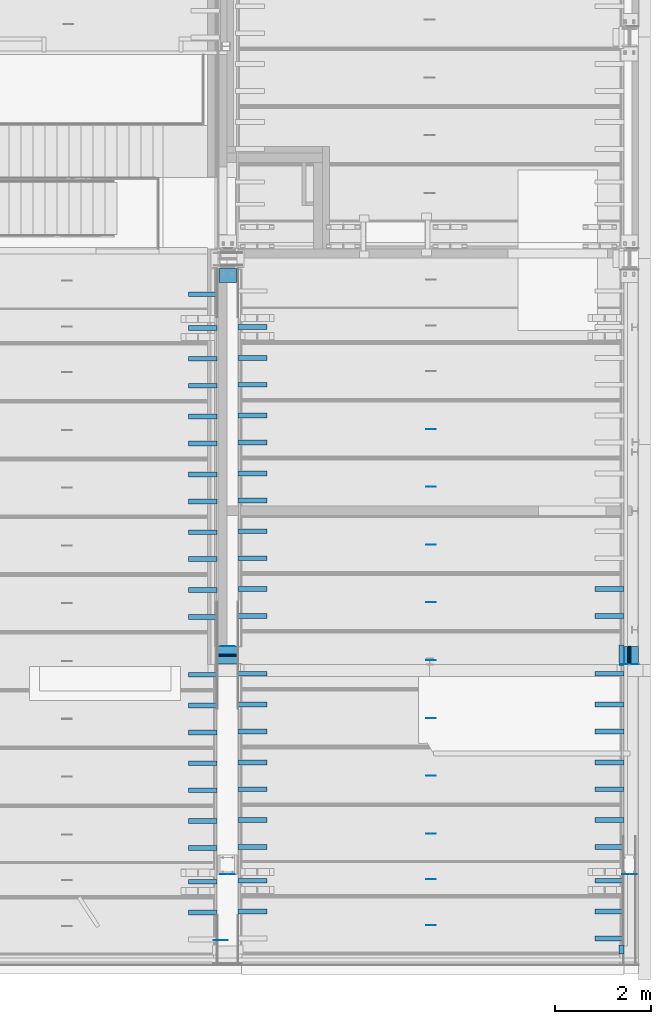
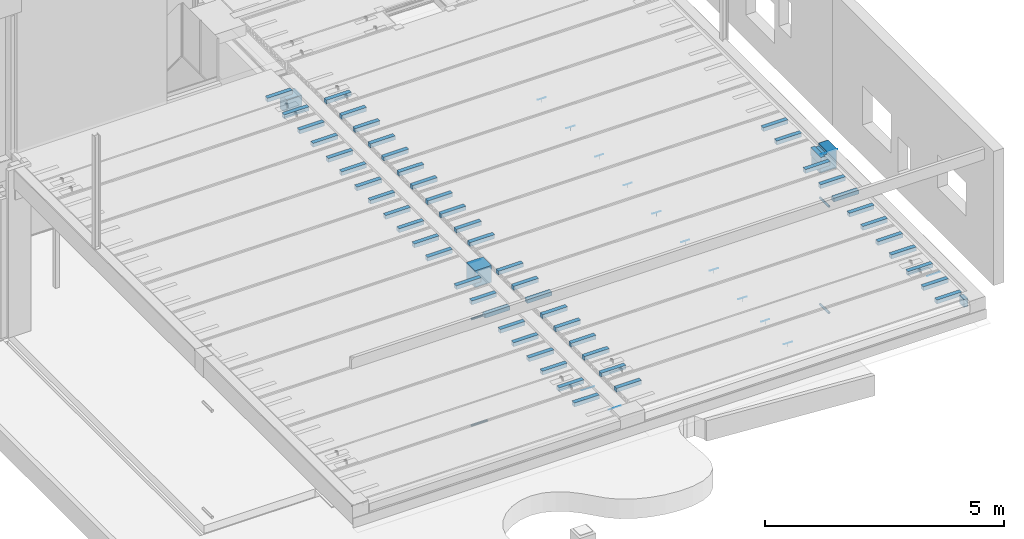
# One storey, part 16 of 230: 87 beams.
"""IFC4X3_ADD2 building model written with IfcOpenShell, lengths in millimetres."""

import ifcopenshell
import ifcopenshell.guid

model = None  # the IFC model being written
_history = None  # IfcOwnerHistory: only IFC2X3 demands one
_inside = {}  # id of a spatial element -> (the spatial element, [elements in it])
_under = {}  # id of a project, library or spatial element -> (it, [spatial elements below it])
_declared = {}  # id of a project -> (the project, [libraries it declares])
_typed = {}  # id of a type object -> (the type object, [elements of that type])
_made_of = {}  # id of a material, layer set ... -> (it, [elements and type objects made of it])


def new_model(schema):
    """Start an empty IFC model of exactly this schema.

    Asked for "IFC4X3", IfcOpenShell would pick the latest addendum, in which some entities
    have other attributes; the version numbers below select the first issue.
    IFC2X3 requires an IfcOwnerHistory on every rooted entity: one is made here for all.
    """
    global model, _history
    if schema == "IFC4X3":
        model = ifcopenshell.file(schema_version=(4, 3, 0, 0))
    else:
        model = ifcopenshell.file(schema=schema)
    _inside.clear()
    _under.clear()
    _declared.clear()
    _typed.clear()
    _made_of.clear()
    _history = None
    if model.schema == "IFC2X3":
        org = make("IfcOrganization", Name="unknown")
        user = make(
            "IfcPersonAndOrganization",
            ThePerson=make("IfcPerson", FamilyName="unknown"),
            TheOrganization=org,
        )
        app = make(
            "IfcApplication",
            ApplicationDeveloper=org,
            Version="unknown",
            ApplicationFullName="unknown",
            ApplicationIdentifier="unknown",
        )
        _history = make(
            "IfcOwnerHistory",
            OwningUser=user,
            OwningApplication=app,
            ChangeAction="ADDED",
            CreationDate=0,
        )
    return model


def make(cls, **values):
    """One entity of the class cls with the attributes given. An attribute that is None is left unset."""
    return model.create_entity(
        cls, **{name: value for name, value in values.items() if value is not None}
    )


def entity(cls, *values):
    """Any entity or typed value of the class cls, its attributes in the order of the schema. None: left unset."""
    e = model.create_entity(cls)
    for i, value in enumerate(values):
        if value is not None:
            e[i] = value
    return e


def rooted(cls, **values):
    """An entity with a GlobalId (a new one), such as an element, a storey or a relation."""
    return make(cls, GlobalId=ifcopenshell.guid.new(), OwnerHistory=_history, **values)


def si_unit(unit_type, name, prefix=None):
    """IfcSIUnit, for example si_unit("LENGTHUNIT", "METRE", prefix="MILLI")."""
    return make("IfcSIUnit", UnitType=unit_type, Prefix=prefix, Name=name)


def assignment(units):
    """IfcUnitAssignment: the units of a project."""
    return None if units is None else make("IfcUnitAssignment", Units=units)


def point(xyz):
    """IfcCartesianPoint."""
    return None if xyz is None else make("IfcCartesianPoint", Coordinates=xyz)


def direction(xyz):
    """IfcDirection."""
    return None if xyz is None else make("IfcDirection", DirectionRatios=xyz)


def frame(location, z_axis=None, x_axis=None):
    """IfcAxis2Placement3D, a coordinate frame: its origin and axes. An axis left out is left unset."""
    return make(
        "IfcAxis2Placement3D",
        Location=point(location),
        Axis=direction(z_axis),
        RefDirection=direction(x_axis),
    )


def frame_2d(location, x_axis=None):
    """IfcAxis2Placement2D, a coordinate frame in the plane: its origin and x axis."""
    return make(
        "IfcAxis2Placement2D", Location=point(location), RefDirection=direction(x_axis)
    )


def origin_with_axes():
    """The frame at (0, 0, 0) with the z axis (0, 0, 1) and the x axis (1, 0, 0) written out."""
    return frame((0.0, 0.0, 0.0), z_axis=(0.0, 0.0, 1.0), x_axis=(1.0, 0.0, 0.0))


def place(relative_to, where):
    """IfcLocalPlacement: puts the frame where relative to a parent placement (None: the world)."""
    return make(
        "IfcLocalPlacement", PlacementRelTo=relative_to, RelativePlacement=where
    )


def context(
    kind, dimensions, precision=None, world=None, true_north=None, identifier=None
):
    """IfcGeometricRepresentationContext, for example the 3D "Model" context."""
    return make(
        "IfcGeometricRepresentationContext",
        ContextIdentifier=identifier,
        ContextType=kind,
        CoordinateSpaceDimension=dimensions,
        Precision=precision,
        WorldCoordinateSystem=world,
        TrueNorth=true_north,
    )


def subcontext(parent, identifier, kind, view, scale=None):
    """IfcGeometricRepresentationSubContext, for example "Body" below "Model"."""
    return make(
        "IfcGeometricRepresentationSubContext",
        ContextIdentifier=identifier,
        ContextType=kind,
        ParentContext=parent,
        TargetScale=scale,
        TargetView=view,
    )


def project(units=None, contexts=None):
    """IfcProject with its units and contexts."""
    return rooted(
        "IfcProject",
        Name="project",
        RepresentationContexts=contexts,
        UnitsInContext=assignment(units),
    )


def spatial(cls, under=None, at=None, **own):
    """A site, building, storey or space (cls), placed at a placement, below another one or the project."""
    s = rooted(cls, ObjectPlacement=at, **own)
    if under is not None:
        _under.setdefault(under.id(), (under, []))[1].append(s)
    return s


def point_list(points):
    """IfcCartesianPointList2D or 3D."""
    cls = (
        "IfcCartesianPointList2D" if len(points[0]) == 2 else "IfcCartesianPointList3D"
    )
    return make(cls, CoordList=points)


def indexed_curve(points, segments=None, self_intersect=None):
    """IfcIndexedPolyCurve: lines and arcs through numbered points (the first is 1)."""
    return make(
        "IfcIndexedPolyCurve",
        Points=point_list(points),
        Segments=segments,
        SelfIntersect=self_intersect,
    )


def profile(cls, at=None, kind="AREA", **sizes):
    """A parametric profile (cls). Its sizes go by their IFC names, for example OverallWidth=200.0."""
    return make(cls, ProfileType=kind, Position=at, **sizes)


def rectangle(**sizes):
    """IfcRectangleProfileDef."""
    return profile("IfcRectangleProfileDef", **sizes)


def hollow_circle(**sizes):
    """IfcCircleHollowProfileDef."""
    return profile("IfcCircleHollowProfileDef", **sizes)


def outline(outer, holes=None, kind="AREA"):
    """IfcArbitraryClosedProfileDef: a profile drawn as a closed curve; with holes, ...WithVoids."""
    if holes is None:
        return make("IfcArbitraryClosedProfileDef", ProfileType=kind, OuterCurve=outer)
    return make(
        "IfcArbitraryProfileDefWithVoids",
        ProfileType=kind,
        OuterCurve=outer,
        InnerCurves=holes,
    )


def extrude(swept, where, along, depth):
    """IfcExtrudedAreaSolid: the profile swept, set in the frame where, extruded along a direction by depth."""
    return make(
        "IfcExtrudedAreaSolid",
        SweptArea=swept,
        Position=where,
        ExtrudedDirection=direction(along),
        Depth=depth,
    )


def shape(context_of_items, identifier, shape_type, items):
    """IfcShapeRepresentation: the items that make up one representation, for example the "Body"."""
    return make(
        "IfcShapeRepresentation",
        ContextOfItems=context_of_items,
        RepresentationIdentifier=identifier,
        RepresentationType=shape_type,
        Items=items,
    )


def material(Name=None, Category=None):
    """IfcMaterial."""
    return make("IfcMaterial", Name=Name, Category=Category)


def made_of(thing, what):
    """Note that an element or type object is made of a material, layer set ...; save() writes the relation."""
    if what is not None:
        _made_of.setdefault(what.id(), (what, []))[1].append(thing)
    return thing


def element(
    cls,
    number,
    at=None,
    inside=None,
    cuts=None,
    type_object=None,
    material=None,
    context=None,
    identifier="Body",
    shape_type=None,
    held_by="IfcProductDefinitionShape",
    body=None,
    shapes=None,
    **own,
):
    """One element of the class cls, such as IfcWall. Its Tag is "e" and its number.

    at: its placement. inside: the storey or other place that contains it. cuts: it is an
    opening in that element (IfcRelVoidsElement). A single representation is given by context,
    identifier, shape_type and body (its items); several are given by shapes. held_by: the class
    of the entity that holds the representations. save() writes the other relations.
    """
    e = rooted(cls, Tag="e%d" % number, ObjectPlacement=at, **own)
    if body is not None:
        shapes = [shape(context, identifier, shape_type, body)]
    if shapes is not None:
        e.Representation = make(held_by, Representations=shapes)
    if inside is not None:
        _inside.setdefault(inside.id(), (inside, []))[1].append(e)
    if cuts is not None:
        rooted(
            "IfcRelVoidsElement", RelatingBuildingElement=cuts, RelatedOpeningElement=e
        )
    if type_object is not None:
        _typed.setdefault(type_object.id(), (type_object, []))[1].append(e)
    return made_of(e, material)


def aggregate(whole, parts):
    """IfcRelAggregates: a whole, such as a stair, and the parts it consists of."""
    return rooted("IfcRelAggregates", RelatingObject=whole, RelatedObjects=parts)


def save(model, path):
    """Write the relations noted so far, then the file.

    IfcRelAggregates (storeys below a building ...), IfcRelContainedInSpatialStructure (elements
    in a storey), IfcRelDefinesByType, IfcRelAssociatesMaterial and IfcRelDeclares: one each for
    every whole, place, type object, material and project.
    """
    for whole, parts in _under.values():
        aggregate(whole, parts)
    for where, things in _inside.values():
        rooted(
            "IfcRelContainedInSpatialStructure",
            RelatedElements=things,
            RelatingStructure=where,
        )
    for kind, things in _typed.values():
        rooted("IfcRelDefinesByType", RelatedObjects=things, RelatingType=kind)
    for what, things in _made_of.values():
        rooted("IfcRelAssociatesMaterial", RelatedObjects=things, RelatingMaterial=what)
    for by, libraries in _declared.values():
        rooted("IfcRelDeclares", RelatingContext=by, RelatedDefinitions=libraries)
    model.write(path)


model = new_model("IFC4X3_ADD2")

# Units and contexts
model_context = context("Model", 3, precision=1e-05, world=origin_with_axes(), true_north=direction((0.0, 1.0)))
body_context = subcontext(model_context, "Body", "Model", "MODEL_VIEW")
ifc_project = project(units=[si_unit("LENGTHUNIT", "METRE", prefix="MILLI"), si_unit("AREAUNIT", "SQUARE_METRE"), si_unit("VOLUMEUNIT", "CUBIC_METRE"), si_unit("PLANEANGLEUNIT", "RADIAN"), si_unit("TIMEUNIT", "SECOND"), si_unit("MASSUNIT", "GRAM")], contexts=[model_context])

# Site, building, storey
site_placement = place(None, origin_with_axes())
site = spatial("IfcSite", under=ifc_project, at=site_placement, Name="Site", CompositionType="ELEMENT")
building_placement = place(site_placement, origin_with_axes())
building = spatial("IfcBuilding", under=site, at=building_placement, Name="IFC Building Story")
storey_placement = place(building_placement, origin_with_axes())
storey = spatial("IfcBuildingStorey", under=building, at=storey_placement, Name="ETAGE 00 (0)", Elevation=0.0)

# Beams
ifc_material_1 = material(Name="BS_28_Ossature en béton armé - Eléments coulé sur place")
beam_1_placement = place(storey_placement, frame((39961.68947816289, -8210.00008672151, 3984.999999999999), z_axis=(0.0, 1.0, 0.0), x_axis=(0.0, 0.0, -1.0)))
element("IfcBeam", 1, at=beam_1_placement, inside=storey, material=ifc_material_1, Name="BS_28_SF_LE_Poutre rectangulaire_coulé:B.A. 40x50cm (noeud CSP)", ObjectType="B.A. 40x50cm (noeud CSP) 2", context=body_context, shape_type="SweptSolid", body=[
    extrude(rectangle(XDim=430.000000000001, YDim=400.000000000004, at=frame_2d((0.0, 5.95523630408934e-12), x_axis=(1.0, 0.0))), origin_with_axes(), (0.0, 0.0, 1.0), 359.9999999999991),
])
beam_2_placement = place(storey_placement, frame((48301.6894781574, -8210.000086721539, 4020.0), z_axis=(0.0, 1.0, 0.0), x_axis=(1.0, 0.0, 0.0)))
element("IfcBeam", 2, at=beam_2_placement, inside=storey, material=ifc_material_1, Name="BS_28_SF_LE_Poutre rectangulaire_coulé:B.A. 40x50cm (noeud CSP)", ObjectType="B.A. 40x50cm (noeud CSP) 3", context=body_context, shape_type="SweptSolid", body=[
    extrude(outline(indexed_curve([(-36.00347815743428, -249.9999999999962), (-36.00347815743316, -179.9999999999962), (-200.0000000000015, -179.9999999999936), (-199.9999999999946, 250.0000000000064), (200.0000000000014, 250.0), (200.0000000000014, -250.0), (-36.00347815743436, -249.9999999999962)])), origin_with_axes(), (0.0, 0.0, 1.0), 359.9999999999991),
])
ifc_material_2 = material(Name="STEEL/Accessory_C60/75")
beam_3_placement = place(storey_placement, frame((39786.189, -150.0, 3560.0), z_axis=(1.0, 0.0, 0.0), x_axis=(0.0, 0.0, 1.0)))
element("IfcBeam", 3, at=beam_3_placement, inside=storey, material=ifc_material_2, Name="BEK1", ObjectType="CORBEL400-300-360", context=body_context, shape_type="SweptSolid", body=[
    extrude(entity("IfcTrapeziumProfileDef", "AREA", None, entity("IfcAxis2Placement2D", entity("IfcCartesianPoint", [0.0, 5.95523630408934e-12]), entity("IfcDirection", [1.0, 0.0])), 400.0, 360.0, 300.0, 40.0), origin_with_axes(), (0.0, 0.0, 1.0), 360.0),
])
ifc_material_3 = material(Name="STEEL/Accessory_PVC")
for number, where, z_axis, x_axis, name in (
    (4, (39774.1890000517, -8035.0, 140.0), (1.0, 0.0, 0.0), (0.0, 0.0, -1.0), "PS13"),
    (5, (39774.1889999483, -8035.0, 2860.0), (1.0, 0.0, 0.0), (0.0, 0.0, -1.0), "PS13"),
    (6, (48311.188, -8226.99999994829, 140.0), (0.0, 1.0, 0.0), (1.0, 0.0, 0.0), "PS13"),
    (7, (48311.188, -8226.99999994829, 2860.0), (0.0, 1.0, 0.0), (1.0, 0.0, 0.0), "PS13"),
):
    element("IfcBeam", number, at=place(storey_placement, frame(where, z_axis=z_axis, x_axis=x_axis)), inside=storey, material=ifc_material_3, Name=name, ObjectType="O56*3", context=body_context, shape_type="SweptSolid", body=[
        extrude(hollow_circle(Radius=28.0, WallThickness=3.0, at=frame_2d((0.0, 5.95523630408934e-12), x_axis=(1.0, 0.0))), origin_with_axes(), (0.0, 0.0, 1.0), 384.0),
    ])
ifc_material_4 = material(Name="STEEL/Accessory_invisible")
for number, where, z_axis, x_axis, name in (
    (8, (39750.6922247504, -3079.999771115, 4150.0), (-1.0, 0.0, 0.0), (0.0, -1.0, 0.0), "ES7"),
    (9, (39750.6922247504, -3639.999771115, 4150.0), (-1.0, 0.0, 0.0), (0.0, -1.0, 0.0), "ES7"),
    (10, (39750.6922247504, -4279.999771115, 4150.0), (-1.0, 0.0, 0.0), (0.0, -1.0, 0.0), "ES7"),
    (11, (39750.6922247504, -4839.999771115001, 4150.0), (-1.0, 0.0, 0.0), (0.0, -1.0, 0.0), "ES7"),
    (12, (39750.6922247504, -5479.999771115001, 4150.0), (-1.0, 0.0, 0.0), (0.0, -1.0, 0.0), "ES7"),
    (13, (39750.6922247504, -6039.999771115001, 4150.0), (-1.0, 0.0, 0.0), (0.0, -1.0, 0.0), "ES7"),
    (14, (39750.6922247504, -6679.999771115, 4150.0), (-1.0, 0.0, 0.0), (0.0, -1.0, 0.0), "ES7"),
    (15, (39750.6922247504, -7239.999771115, 4150.0), (-1.0, 0.0, 0.0), (0.0, -1.0, 0.0), "ES7"),
    (16, (39750.6922247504, -9079.999771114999, 4150.0), (-1.0, 0.0, 0.0), (0.0, -1.0, 0.0), "ES7"),
    (17, (39750.6922247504, -9639.999771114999, 4150.0), (-1.0, 0.0, 0.0), (0.0, -1.0, 0.0), "ES7"),
    (18, (39750.6922247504, -10279.999771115, 4150.0), (-1.0, 0.0, 0.0), (0.0, -1.0, 0.0), "ES7"),
    (19, (39750.6922247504, -10839.999771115, 4150.0), (-1.0, 0.0, 0.0), (0.0, -1.0, 0.0), "ES7"),
    (20, (39750.6922247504, -11479.999771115, 4150.0), (-1.0, 0.0, 0.0), (0.0, -1.0, 0.0), "ES7"),
    (21, (39750.6922247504, -12039.999771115, 4150.0), (-1.0, 0.0, 0.0), (0.0, -1.0, 0.0), "ES7"),
    (22, (39750.6922247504, -13379.999771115, 4150.0), (-1.0, 0.0, 0.0), (0.0, -1.0, 0.0), "ES7"),
    (23, (39750.6922247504, -8439.999771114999, 4150.0), (-1.0, 0.0, 0.0), (0.0, -1.0, 0.0), "ES7"),
    (24, (39750.6922247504, -539.999771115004, 4150.0), (-1.0, 0.0, 0.0), (0.0, -1.0, 0.0), "ES7"),
    (25, (39750.6922247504, -12739.999752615, 4150.0), (-1.0, 0.0, 0.0), (0.0, -1.0, 0.0), "ES7"),
    (26, (39750.6922247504, -1879.999771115, 4150.0), (-1.0, 0.0, 0.0), (0.0, -1.0, 0.0), "ES7"),
    (27, (39750.6922247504, -2439.999771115, 4150.0), (-1.0, 0.0, 0.0), (0.0, -1.0, 0.0), "ES7"),
    (28, (39750.6922247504, -1239.999752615, 4150.0), (-1.0, 0.0, 0.0), (0.0, -1.0, 0.0), "ES7"),
):
    element("IfcBeam", number, at=place(storey_placement, frame(where, z_axis=z_axis, x_axis=x_axis)), inside=storey, material=ifc_material_4, Name=name, ObjectType="100*100", context=body_context, shape_type="SweptSolid", body=[
        extrude(rectangle(XDim=100.0, YDim=99.99999999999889, at=frame_2d((0.0, 5.95523630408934e-12), x_axis=(1.0, 0.0))), origin_with_axes(), (0.0, 0.0, 1.0), 600.0000000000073),
    ])
for number, where, z_axis, x_axis, name in (
    (29, (40781.189, -1860.0, 4150.0), (-1.0, 0.0, 0.0), (0.0, 1.0, 0.0), "ES7"),
    (30, (40781.189, -2420.0, 4150.0), (-1.0, 0.0, 0.0), (0.0, 1.0, 0.0), "ES7"),
    (31, (40781.189, -3060.0, 4150.0), (-1.0, 0.0, 0.0), (0.0, 1.0, 0.0), "ES7"),
    (32, (40781.189, -3620.0, 4150.0), (-1.0, 0.0, 0.0), (0.0, 1.0, 0.0), "ES7"),
):
    element("IfcBeam", number, at=place(storey_placement, frame(where, z_axis=z_axis, x_axis=x_axis)), inside=storey, material=ifc_material_4, Name=name, ObjectType="100*100", context=body_context, shape_type="SweptSolid", body=[
        extrude(rectangle(XDim=100.0, YDim=99.99999999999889, at=frame_2d((0.0, 5.95523630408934e-12), x_axis=(1.0, 0.0))), origin_with_axes(), (0.0, 0.0, 1.0), 600.0),
    ])
ifc_material_5 = material(Name="STEEL/Accessory_invisible 261")
beam_4_placement = place(storey_placement, frame((44189.189, -3340.0, 4049.9999909), z_axis=(-1.0, 0.0, 0.0), x_axis=(0.0, 0.0, -1.0)))
element("IfcBeam", 33, at=beam_4_placement, inside=storey, material=ifc_material_5, Name="ES6", ObjectType="1*1 2", context=body_context, shape_type="SweptSolid", body=[
    extrude(rectangle(XDim=100.0, YDim=0.9999999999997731, at=frame_2d((0.0, 5.95523630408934e-12), x_axis=(1.0, 0.0))), origin_with_axes(), (0.0, 0.0, 1.0), 1.0),
])
beam_5_placement = place(storey_placement, frame((44288.689, -3340.0, 4100.0), z_axis=(-1.0, 0.0, 0.0), x_axis=(0.0, 1.0, 0.0)))
element("IfcBeam", 34, at=beam_5_placement, inside=storey, material=ifc_material_5, Name="ES31", ObjectType="1*1 3", context=body_context, shape_type="SweptSolid", body=[
    extrude(rectangle(XDim=0.9999999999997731, YDim=0.9999999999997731, at=frame_2d((0.0, 5.95523630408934e-12), x_axis=(1.0, 0.0))), origin_with_axes(), (0.0, 0.0, 1.0), 199.9999999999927),
])
for number, where, z_axis, x_axis, name in (
    (35, (40781.189, -4260.0, 4150.0), (-1.0, 0.0, 0.0), (0.0, 1.0, 0.0), "ES7"),
    (36, (40781.189, -4820.0, 4150.0), (-1.0, 0.0, 0.0), (0.0, 1.0, 0.0), "ES7"),
):
    element("IfcBeam", number, at=place(storey_placement, frame(where, z_axis=z_axis, x_axis=x_axis)), inside=storey, material=ifc_material_4, Name=name, ObjectType="100*100", context=body_context, shape_type="SweptSolid", body=[
        extrude(rectangle(XDim=100.0, YDim=99.99999999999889, at=frame_2d((0.0, 5.95523630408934e-12), x_axis=(1.0, 0.0))), origin_with_axes(), (0.0, 0.0, 1.0), 600.0),
    ])
beam_6_placement = place(storey_placement, frame((44189.189, -4540.0, 4049.9999909), z_axis=(-1.0, 0.0, 0.0), x_axis=(0.0, 0.0, -1.0)))
element("IfcBeam", 37, at=beam_6_placement, inside=storey, material=ifc_material_5, Name="ES6", ObjectType="1*1 2", context=body_context, shape_type="SweptSolid", body=[
    extrude(rectangle(XDim=100.0, YDim=0.9999999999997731, at=frame_2d((0.0, 5.95523630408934e-12), x_axis=(1.0, 0.0))), origin_with_axes(), (0.0, 0.0, 1.0), 1.0),
])
beam_7_placement = place(storey_placement, frame((44288.689, -4540.0, 4100.0), z_axis=(-1.0, 0.0, 0.0), x_axis=(0.0, 1.0, 0.0)))
element("IfcBeam", 38, at=beam_7_placement, inside=storey, material=ifc_material_5, Name="ES31", ObjectType="1*1 3", context=body_context, shape_type="SweptSolid", body=[
    extrude(rectangle(XDim=0.9999999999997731, YDim=0.9999999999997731, at=frame_2d((0.0, 5.95523630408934e-12), x_axis=(1.0, 0.0))), origin_with_axes(), (0.0, 0.0, 1.0), 199.9999999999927),
])
for number, where, z_axis, x_axis, name in (
    (39, (40781.189, -5460.0, 4150.0), (-1.0, 0.0, 0.0), (0.0, 1.0, 0.0), "ES7"),
    (40, (40781.189, -6020.0, 4150.0), (-1.0, 0.0, 0.0), (0.0, 1.0, 0.0), "ES7"),
):
    element("IfcBeam", number, at=place(storey_placement, frame(where, z_axis=z_axis, x_axis=x_axis)), inside=storey, material=ifc_material_4, Name=name, ObjectType="100*100", context=body_context, shape_type="SweptSolid", body=[
        extrude(rectangle(XDim=100.0, YDim=99.99999999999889, at=frame_2d((0.0, 5.95523630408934e-12), x_axis=(1.0, 0.0))), origin_with_axes(), (0.0, 0.0, 1.0), 600.0),
    ])
beam_8_placement = place(storey_placement, frame((44189.189, -5740.0, 4049.9999909), z_axis=(-1.0, 0.0, 0.0), x_axis=(0.0, 0.0, -1.0)))
element("IfcBeam", 41, at=beam_8_placement, inside=storey, material=ifc_material_5, Name="ES6", ObjectType="1*1 2", context=body_context, shape_type="SweptSolid", body=[
    extrude(rectangle(XDim=100.0, YDim=0.9999999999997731, at=frame_2d((0.0, 5.95523630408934e-12), x_axis=(1.0, 0.0))), origin_with_axes(), (0.0, 0.0, 1.0), 1.0),
])
beam_9_placement = place(storey_placement, frame((44288.689, -5740.0, 4100.0), z_axis=(-1.0, 0.0, 0.0), x_axis=(0.0, 1.0, 0.0)))
element("IfcBeam", 42, at=beam_9_placement, inside=storey, material=ifc_material_5, Name="ES31", ObjectType="1*1 3", context=body_context, shape_type="SweptSolid", body=[
    extrude(rectangle(XDim=0.9999999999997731, YDim=0.9999999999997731, at=frame_2d((0.0, 5.95523630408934e-12), x_axis=(1.0, 0.0))), origin_with_axes(), (0.0, 0.0, 1.0), 199.9999999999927),
])
for number, where, z_axis, x_axis, name in (
    (43, (40781.189, -6660.0, 4150.0), (-1.0, 0.0, 0.0), (0.0, 1.0, 0.0), "ES7"),
    (44, (40781.189, -7220.0, 4150.0), (-1.0, 0.0, 0.0), (0.0, 1.0, 0.0), "ES7"),
    (45, (48196.18900000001, -6660.0, 4150.0), (-1.0, 0.0, 0.0), (0.0, -1.0, 0.0), "ES7"),
    (46, (48196.18900000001, -7220.0, 4150.0), (-1.0, 0.0, 0.0), (0.0, -1.0, 0.0), "ES7"),
):
    element("IfcBeam", number, at=place(storey_placement, frame(where, z_axis=z_axis, x_axis=x_axis)), inside=storey, material=ifc_material_4, Name=name, ObjectType="100*100", context=body_context, shape_type="SweptSolid", body=[
        extrude(rectangle(XDim=100.0, YDim=99.99999999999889, at=frame_2d((0.0, 5.95523630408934e-12), x_axis=(1.0, 0.0))), origin_with_axes(), (0.0, 0.0, 1.0), 600.0),
    ])
beam_10_placement = place(storey_placement, frame((44189.189, -6940.0, 4049.9999909), z_axis=(-1.0, 0.0, 0.0), x_axis=(0.0, 0.0, -1.0)))
element("IfcBeam", 47, at=beam_10_placement, inside=storey, material=ifc_material_5, Name="ES6", ObjectType="1*1 2", context=body_context, shape_type="SweptSolid", body=[
    extrude(rectangle(XDim=100.0, YDim=0.9999999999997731, at=frame_2d((0.0, 5.95523630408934e-12), x_axis=(1.0, 0.0))), origin_with_axes(), (0.0, 0.0, 1.0), 1.0),
])
beam_11_placement = place(storey_placement, frame((44288.689, -6940.0, 4100.0), z_axis=(-1.0, 0.0, 0.0), x_axis=(0.0, 1.0, 0.0)))
element("IfcBeam", 48, at=beam_11_placement, inside=storey, material=ifc_material_5, Name="ES31", ObjectType="1*1 3", context=body_context, shape_type="SweptSolid", body=[
    extrude(rectangle(XDim=0.9999999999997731, YDim=0.9999999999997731, at=frame_2d((0.0, 5.95523630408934e-12), x_axis=(1.0, 0.0))), origin_with_axes(), (0.0, 0.0, 1.0), 199.9999999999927),
])
for number, where, z_axis, x_axis, name in (
    (49, (40781.189, -9060.0, 4150.0), (-1.0, 0.0, 0.0), (0.0, 1.0, 0.0), "ES7"),
    (50, (40781.189, -9620.0, 4150.0), (-1.0, 0.0, 0.0), (0.0, 1.0, 0.0), "ES7"),
    (51, (48196.18900000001, -9060.0, 4150.0), (-1.0, 0.0, 0.0), (0.0, -1.0, 0.0), "ES7"),
    (52, (48196.18900000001, -9620.0, 4150.0), (-1.0, 0.0, 0.0), (0.0, -1.0, 0.0), "ES7"),
):
    element("IfcBeam", number, at=place(storey_placement, frame(where, z_axis=z_axis, x_axis=x_axis)), inside=storey, material=ifc_material_4, Name=name, ObjectType="100*100", context=body_context, shape_type="SweptSolid", body=[
        extrude(rectangle(XDim=100.0, YDim=99.99999999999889, at=frame_2d((0.0, 5.95523630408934e-12), x_axis=(1.0, 0.0))), origin_with_axes(), (0.0, 0.0, 1.0), 600.0),
    ])
beam_12_placement = place(storey_placement, frame((44189.189, -9340.0, 4049.9999909), z_axis=(-1.0, 0.0, 0.0), x_axis=(0.0, 0.0, -1.0)))
element("IfcBeam", 53, at=beam_12_placement, inside=storey, material=ifc_material_5, Name="ES6", ObjectType="1*1 2", context=body_context, shape_type="SweptSolid", body=[
    extrude(rectangle(XDim=100.0, YDim=0.9999999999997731, at=frame_2d((0.0, 5.95523630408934e-12), x_axis=(1.0, 0.0))), origin_with_axes(), (0.0, 0.0, 1.0), 1.0),
])
beam_13_placement = place(storey_placement, frame((44288.689, -9340.0, 4100.0), z_axis=(-1.0, 0.0, 0.0), x_axis=(0.0, 1.0, 0.0)))
element("IfcBeam", 54, at=beam_13_placement, inside=storey, material=ifc_material_5, Name="ES31", ObjectType="1*1 3", context=body_context, shape_type="SweptSolid", body=[
    extrude(rectangle(XDim=0.9999999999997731, YDim=0.9999999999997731, at=frame_2d((0.0, 5.95523630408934e-12), x_axis=(1.0, 0.0))), origin_with_axes(), (0.0, 0.0, 1.0), 199.9999999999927),
])
for number, where, z_axis, x_axis, name in (
    (55, (40781.189, -10260.0, 4150.0), (-1.0, 0.0, 0.0), (0.0, 1.0, 0.0), "ES7"),
    (56, (40781.189, -10820.0, 4150.0), (-1.0, 0.0, 0.0), (0.0, 1.0, 0.0), "ES7"),
    (57, (48196.18900000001, -10260.0, 4150.0), (-1.0, 0.0, 0.0), (0.0, -1.0, 0.0), "ES7"),
    (58, (48196.18900000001, -10820.0, 4150.0), (-1.0, 0.0, 0.0), (0.0, -1.0, 0.0), "ES7"),
):
    element("IfcBeam", number, at=place(storey_placement, frame(where, z_axis=z_axis, x_axis=x_axis)), inside=storey, material=ifc_material_4, Name=name, ObjectType="100*100", context=body_context, shape_type="SweptSolid", body=[
        extrude(rectangle(XDim=100.0, YDim=99.99999999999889, at=frame_2d((0.0, 5.95523630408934e-12), x_axis=(1.0, 0.0))), origin_with_axes(), (0.0, 0.0, 1.0), 600.0),
    ])
beam_14_placement = place(storey_placement, frame((44189.189, -10540.0, 4049.9999909), z_axis=(-1.0, 0.0, 0.0), x_axis=(0.0, 0.0, -1.0)))
element("IfcBeam", 59, at=beam_14_placement, inside=storey, material=ifc_material_5, Name="ES6", ObjectType="1*1 2", context=body_context, shape_type="SweptSolid", body=[
    extrude(rectangle(XDim=100.0, YDim=0.9999999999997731, at=frame_2d((0.0, 5.95523630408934e-12), x_axis=(1.0, 0.0))), origin_with_axes(), (0.0, 0.0, 1.0), 1.0),
])
beam_15_placement = place(storey_placement, frame((44288.689, -10540.0, 4100.0), z_axis=(-1.0, 0.0, 0.0), x_axis=(0.0, 1.0, 0.0)))
element("IfcBeam", 60, at=beam_15_placement, inside=storey, material=ifc_material_5, Name="ES31", ObjectType="1*1 3", context=body_context, shape_type="SweptSolid", body=[
    extrude(rectangle(XDim=0.9999999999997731, YDim=0.9999999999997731, at=frame_2d((0.0, 5.95523630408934e-12), x_axis=(1.0, 0.0))), origin_with_axes(), (0.0, 0.0, 1.0), 199.9999999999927),
])
for number, where, z_axis, x_axis, name in (
    (61, (40781.189, -11460.0, 4150.0), (-1.0, 0.0, 0.0), (0.0, 1.0, 0.0), "ES7"),
    (62, (40781.189, -12020.0, 4150.0), (-1.0, 0.0, 0.0), (0.0, 1.0, 0.0), "ES7"),
    (63, (48196.18900000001, -11460.0, 4150.0), (-1.0, 0.0, 0.0), (0.0, -1.0, 0.0), "ES7"),
    (64, (48196.18900000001, -12020.0, 4150.0), (-1.0, 0.0, 0.0), (0.0, -1.0, 0.0), "ES7"),
):
    element("IfcBeam", number, at=place(storey_placement, frame(where, z_axis=z_axis, x_axis=x_axis)), inside=storey, material=ifc_material_4, Name=name, ObjectType="100*100", context=body_context, shape_type="SweptSolid", body=[
        extrude(rectangle(XDim=100.0, YDim=99.99999999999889, at=frame_2d((0.0, 5.95523630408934e-12), x_axis=(1.0, 0.0))), origin_with_axes(), (0.0, 0.0, 1.0), 600.0),
    ])
beam_16_placement = place(storey_placement, frame((44189.189, -11740.0, 4049.9999909), z_axis=(-1.0, 0.0, 0.0), x_axis=(0.0, 0.0, -1.0)))
element("IfcBeam", 65, at=beam_16_placement, inside=storey, material=ifc_material_5, Name="ES6", ObjectType="1*1 2", context=body_context, shape_type="SweptSolid", body=[
    extrude(rectangle(XDim=100.0, YDim=0.9999999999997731, at=frame_2d((0.0, 5.95523630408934e-12), x_axis=(1.0, 0.0))), origin_with_axes(), (0.0, 0.0, 1.0), 1.0),
])
beam_17_placement = place(storey_placement, frame((44288.689, -11740.0, 4100.0), z_axis=(-1.0, 0.0, 0.0), x_axis=(0.0, 1.0, 0.0)))
element("IfcBeam", 66, at=beam_17_placement, inside=storey, material=ifc_material_5, Name="ES31", ObjectType="1*1 3", context=body_context, shape_type="SweptSolid", body=[
    extrude(rectangle(XDim=0.9999999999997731, YDim=0.9999999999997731, at=frame_2d((0.0, 5.95523630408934e-12), x_axis=(1.0, 0.0))), origin_with_axes(), (0.0, 0.0, 1.0), 199.9999999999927),
])
for number, where, z_axis, x_axis, name in (
    (67, (40781.189, -12720.0, 4150.0), (-1.0, 0.0, 0.0), (0.0, 1.0, 0.0), "ES7"),
    (68, (48196.18900000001, -12720.0, 4150.0), (-1.0, 0.0, 0.0), (0.0, -1.0, 0.0), "ES7"),
):
    element("IfcBeam", number, at=place(storey_placement, frame(where, z_axis=z_axis, x_axis=x_axis)), inside=storey, material=ifc_material_4, Name=name, ObjectType="100*100", context=body_context, shape_type="SweptSolid", body=[
        extrude(rectangle(XDim=100.0, YDim=99.99999999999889, at=frame_2d((0.0, 5.95523630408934e-12), x_axis=(1.0, 0.0))), origin_with_axes(), (0.0, 0.0, 1.0), 600.0),
    ])
beam_18_placement = place(storey_placement, frame((44189.189, -12690.0, 4049.9999909), z_axis=(-1.0, 0.0, 0.0), x_axis=(0.0, 0.0, -1.0)))
element("IfcBeam", 69, at=beam_18_placement, inside=storey, material=ifc_material_5, Name="ES6", ObjectType="1*1 2", context=body_context, shape_type="SweptSolid", body=[
    extrude(rectangle(XDim=100.0, YDim=0.9999999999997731, at=frame_2d((0.0, 5.95523630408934e-12), x_axis=(1.0, 0.0))), origin_with_axes(), (0.0, 0.0, 1.0), 1.0),
])
beam_19_placement = place(storey_placement, frame((44288.689, -12690.0, 4100.0), z_axis=(-1.0, 0.0, 0.0), x_axis=(0.0, 1.0, 0.0)))
element("IfcBeam", 70, at=beam_19_placement, inside=storey, material=ifc_material_5, Name="ES31", ObjectType="1*1 3", context=body_context, shape_type="SweptSolid", body=[
    extrude(rectangle(XDim=0.9999999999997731, YDim=0.9999999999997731, at=frame_2d((0.0, 5.95523630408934e-12), x_axis=(1.0, 0.0))), origin_with_axes(), (0.0, 0.0, 1.0), 199.9999999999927),
])
for number, where, z_axis, x_axis, name in (
    (71, (40781.189, -1219.9999815, 4150.0), (-1.0, 0.0, 0.0), (0.0, 1.0, 0.0), "ES7"),
    (72, (40781.189, -13360.0, 4150.0), (-1.0, 0.0, 0.0), (0.0, 1.0, 0.0), "ES7"),
    (73, (48196.18900000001, -13360.0, 4150.0), (-1.0, 0.0, 0.0), (0.0, -1.0, 0.0), "ES7"),
    (74, (48196.18900000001, -13920.0, 4150.0), (-1.0, 0.0, 0.0), (0.0, -1.0, 0.0), "ES7"),
):
    element("IfcBeam", number, at=place(storey_placement, frame(where, z_axis=z_axis, x_axis=x_axis)), inside=storey, material=ifc_material_4, Name=name, ObjectType="100*100", context=body_context, shape_type="SweptSolid", body=[
        extrude(rectangle(XDim=100.0, YDim=99.99999999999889, at=frame_2d((0.0, 5.95523630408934e-12), x_axis=(1.0, 0.0))), origin_with_axes(), (0.0, 0.0, 1.0), 600.0),
    ])
beam_20_placement = place(storey_placement, frame((44189.189, -13640.0, 4049.9999909), z_axis=(-1.0, 0.0, 0.0), x_axis=(0.0, 0.0, -1.0)))
element("IfcBeam", 75, at=beam_20_placement, inside=storey, material=ifc_material_5, Name="ES6", ObjectType="1*1 2", context=body_context, shape_type="SweptSolid", body=[
    extrude(rectangle(XDim=100.0, YDim=0.9999999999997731, at=frame_2d((0.0, 5.95523630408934e-12), x_axis=(1.0, 0.0))), origin_with_axes(), (0.0, 0.0, 1.0), 1.0),
])
beam_21_placement = place(storey_placement, frame((44288.689, -13640.0, 4100.0), z_axis=(-1.0, 0.0, 0.0), x_axis=(0.0, 1.0, 0.0)))
element("IfcBeam", 76, at=beam_21_placement, inside=storey, material=ifc_material_5, Name="ES31", ObjectType="1*1 3", context=body_context, shape_type="SweptSolid", body=[
    extrude(rectangle(XDim=0.9999999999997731, YDim=0.9999999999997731, at=frame_2d((0.0, 5.95523630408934e-12), x_axis=(1.0, 0.0))), origin_with_axes(), (0.0, 0.0, 1.0), 199.9999999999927),
])
beam_22_placement = place(storey_placement, frame((48196.18900000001, -14145.0, 4100.0), z_axis=(-1.0, 0.0, 0.0), x_axis=(0.0, 0.0, 1.0)))
element("IfcBeam", 77, at=beam_22_placement, inside=storey, material=ifc_material_4, Name="ES32", ObjectType="200*190", context=body_context, shape_type="SweptSolid", body=[
    extrude(rectangle(XDim=200.0, YDim=189.999999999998, at=frame_2d((0.0, 5.95523630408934e-12), x_axis=(1.0, 0.0))), origin_with_axes(), (0.0, 0.0, 1.0), 100.0),
])
for number, where, z_axis, x_axis, name in (
    (78, (40781.189, -8420.0, 4150.0), (-1.0, 0.0, 0.0), (0.0, 1.0, 0.0), "ES7"),
    (79, (48196.18900000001, -8420.0, 4150.0), (-1.0, 0.0, 0.0), (0.0, -1.0, 0.0), "ES7"),
):
    element("IfcBeam", number, at=place(storey_placement, frame(where, z_axis=z_axis, x_axis=x_axis)), inside=storey, material=ifc_material_4, Name=name, ObjectType="100*100", context=body_context, shape_type="SweptSolid", body=[
        extrude(rectangle(XDim=100.0, YDim=99.99999999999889, at=frame_2d((0.0, 5.95523630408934e-12), x_axis=(1.0, 0.0))), origin_with_axes(), (0.0, 0.0, 1.0), 600.0),
    ])
beam_23_placement = place(storey_placement, frame((44189.189, -8140.0, 4049.9999909), z_axis=(-1.0, 0.0, 0.0), x_axis=(0.0, 0.0, -1.0)))
element("IfcBeam", 80, at=beam_23_placement, inside=storey, material=ifc_material_5, Name="ES6", ObjectType="1*1 2", context=body_context, shape_type="SweptSolid", body=[
    extrude(rectangle(XDim=100.0, YDim=0.9999999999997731, at=frame_2d((0.0, 5.95523630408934e-12), x_axis=(1.0, 0.0))), origin_with_axes(), (0.0, 0.0, 1.0), 1.0),
])
beam_24_placement = place(storey_placement, frame((44288.689, -8140.0, 4100.0), z_axis=(-1.0, 0.0, 0.0), x_axis=(0.0, 1.0, 0.0)))
element("IfcBeam", 81, at=beam_24_placement, inside=storey, material=ifc_material_5, Name="ES31", ObjectType="1*1 3", context=body_context, shape_type="SweptSolid", body=[
    extrude(rectangle(XDim=0.9999999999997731, YDim=0.9999999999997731, at=frame_2d((0.0, 5.95523630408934e-12), x_axis=(1.0, 0.0))), origin_with_axes(), (0.0, 0.0, 1.0), 199.9999999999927),
])
beam_25_placement = place(storey_placement, frame((48096.18900000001, -8035.0, 4100.0), z_axis=(1.0, 0.0, 0.0), x_axis=(0.0, 0.0, -1.0)))
element("IfcBeam", 82, at=beam_25_placement, inside=storey, material=ifc_material_4, Name="ES32", ObjectType="200*430", context=body_context, shape_type="SweptSolid", body=[
    extrude(rectangle(XDim=200.0, YDim=430.000000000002, at=frame_2d((0.0, 5.95523630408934e-12), x_axis=(1.0, 0.0))), origin_with_axes(), (0.0, 0.0, 1.0), 100.0),
])
beam_26_placement = place(storey_placement, frame((48505.68599999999, -8220.0, 4254.5), z_axis=(-1.0, 0.0, 0.0), x_axis=(0.0, 1.0, 0.0)))
element("IfcBeam", 83, at=beam_26_placement, inside=storey, material=ifc_material_4, Name="ZW3", ObjectType="1*1 3", context=body_context, shape_type="SweptSolid", body=[
    extrude(rectangle(XDim=0.9999999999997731, YDim=0.9999999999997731, at=frame_2d((0.0, 5.95523630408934e-12), x_axis=(1.0, 0.0))), origin_with_axes(), (0.0, 0.0, 1.0), 389.8999999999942),
])
beam_27_placement = place(storey_placement, frame((48460.6856471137, -12584.499771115, 3779.5), z_axis=(-1.0, 0.0, 0.0), x_axis=(0.0, 1.0, 0.0)))
element("IfcBeam", 84, at=beam_27_placement, inside=storey, material=ifc_material_5, Name="51", ObjectType="1*1 3", context=body_context, shape_type="SweptSolid", body=[
    extrude(rectangle(XDim=0.9999999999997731, YDim=0.9999999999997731, at=frame_2d((0.0, 5.95523630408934e-12), x_axis=(1.0, 0.0))), origin_with_axes(), (0.0, 0.0, 1.0), 300.0),
])
beam_28_placement = place(storey_placement, frame((39966.189, -13955.4467979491, 4170.0), z_axis=(-1.0, 0.0, 0.0), x_axis=(0.0, 1.0, 0.0)))
element("IfcBeam", 85, at=beam_28_placement, inside=storey, material=ifc_material_4, Name="ZW3", ObjectType="1*1 3", context=body_context, shape_type="SweptSolid", body=[
    extrude(rectangle(XDim=0.9999999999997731, YDim=0.9999999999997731, at=frame_2d((0.0, 5.95523630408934e-12), x_axis=(1.0, 0.0))), origin_with_axes(), (0.0, 0.0, 1.0), 290.0),
])
beam_29_placement = place(storey_placement, frame((40116.6876471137, -12584.499771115, 3779.5), z_axis=(-1.0, 0.0, 0.0), x_axis=(0.0, 1.0, 0.0)))
element("IfcBeam", 86, at=beam_29_placement, inside=storey, material=ifc_material_5, Name="51", ObjectType="1*1 3", context=body_context, shape_type="SweptSolid", body=[
    extrude(rectangle(XDim=0.9999999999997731, YDim=0.9999999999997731, at=frame_2d((0.0, 5.95523630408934e-12), x_axis=(1.0, 0.0))), origin_with_axes(), (0.0, 0.0, 1.0), 300.0),
])
beam_30_placement = place(storey_placement, frame((40111.189, -7850.0, 4154.5), z_axis=(-1.0, 0.0, 0.0), x_axis=(0.0, 1.0, 0.0)))
element("IfcBeam", 87, at=beam_30_placement, inside=storey, material=ifc_material_4, Name="ZW3", ObjectType="1*1 3", context=body_context, shape_type="SweptSolid", body=[
    extrude(rectangle(XDim=0.9999999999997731, YDim=0.9999999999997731, at=frame_2d((0.0, 5.95523630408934e-12), x_axis=(1.0, 0.0))), origin_with_axes(), (0.0, 0.0, 1.0), 290.0),
])

save(model, "model.ifc")
